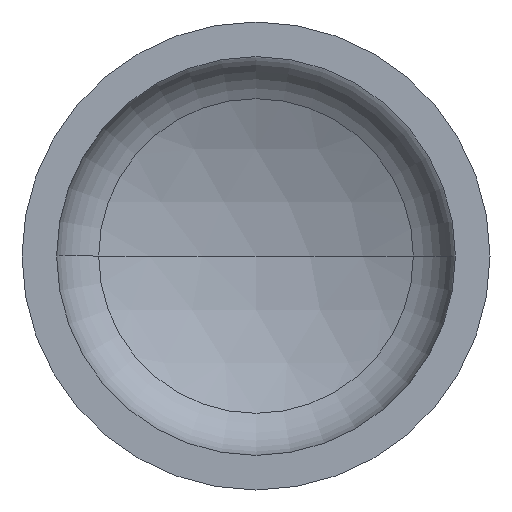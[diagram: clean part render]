
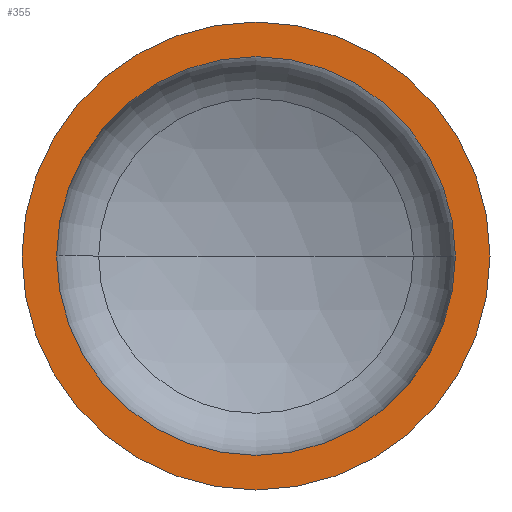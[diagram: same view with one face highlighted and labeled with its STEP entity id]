
A CAD part, front view. The second image highlights one B-rep face of the part: STEP entity #355.
In plain terms, the highlighted planar face has unit normal (0, -1, 0).
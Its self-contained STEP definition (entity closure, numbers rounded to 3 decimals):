
#3 = EDGE_LOOP ( 'NONE', ( #107, #139 ) ) ;
#4 = AXIS2_PLACEMENT_3D ( 'NONE', #179, #180, #359 ) ;
#26 = CIRCLE ( 'NONE', #4, 426. ) ;
#34 = CARTESIAN_POINT ( 'NONE',  ( -500., 0., 0. ) ) ;
#40 = ORIENTED_EDGE ( 'NONE', *, *, #337, .F. ) ;
#44 = PLANE ( 'NONE',  #382 ) ;
#58 = EDGE_LOOP ( 'NONE', ( #361, #40 ) ) ;
#80 = AXIS2_PLACEMENT_3D ( 'NONE', #309, #298, #296 ) ;
#81 = AXIS2_PLACEMENT_3D ( 'NONE', #374, #308, #305 ) ;
#90 = VERTEX_POINT ( 'NONE', #242 ) ;
#92 = VERTEX_POINT ( 'NONE', #369 ) ;
#104 = VERTEX_POINT ( 'NONE', #249 ) ;
#107 = ORIENTED_EDGE ( 'NONE', *, *, #362, .T. ) ;
#110 = EDGE_CURVE ( 'NONE', #247, #90, #230, .T. ) ;
#115 = EDGE_CURVE ( 'NONE', #92, #104, #161, .T. ) ;
#139 = ORIENTED_EDGE ( 'NONE', *, *, #110, .T. ) ;
#154 = DIRECTION ( 'NONE',  ( 0., 1., 0. ) ) ;
#157 = DIRECTION ( 'NONE',  ( -1., 0., 0. ) ) ;
#161 = CIRCLE ( 'NONE', #80, 426. ) ;
#172 = DIRECTION ( 'NONE',  ( 0., -1., 0. ) ) ;
#173 = DIRECTION ( 'NONE',  ( 1., 0., 0. ) ) ;
#179 = CARTESIAN_POINT ( 'NONE',  ( 0., 0., 0. ) ) ;
#180 = DIRECTION ( 'NONE',  ( 0., -1., 0. ) ) ;
#230 = CIRCLE ( 'NONE', #81, 500. ) ;
#242 = CARTESIAN_POINT ( 'NONE',  ( 500., 0., 0. ) ) ;
#247 = VERTEX_POINT ( 'NONE', #34 ) ;
#249 = CARTESIAN_POINT ( 'NONE',  ( -426., 0., 0. ) ) ;
#296 = DIRECTION ( 'NONE',  ( 1., 0., 0. ) ) ;
#297 = FACE_BOUND ( 'NONE', #58, .T. ) ;
#298 = DIRECTION ( 'NONE',  ( 0., -1., 0. ) ) ;
#305 = DIRECTION ( 'NONE',  ( 1., 0., 0. ) ) ;
#308 = DIRECTION ( 'NONE',  ( 0., -1., 0. ) ) ;
#309 = CARTESIAN_POINT ( 'NONE',  ( 0., 0., 0. ) ) ;
#317 = CARTESIAN_POINT ( 'NONE',  ( 0., 0., 0. ) ) ;
#337 = EDGE_CURVE ( 'NONE', #104, #92, #26, .T. ) ;
#355 = ADVANCED_FACE ( 'NONE', ( #297, #356 ), #44, .F. ) ;
#356 = FACE_OUTER_BOUND ( 'NONE', #3, .T. ) ;
#359 = DIRECTION ( 'NONE',  ( 1., 0., 0. ) ) ;
#361 = ORIENTED_EDGE ( 'NONE', *, *, #115, .F. ) ;
#362 = EDGE_CURVE ( 'NONE', #90, #247, #411, .T. ) ;
#369 = CARTESIAN_POINT ( 'NONE',  ( 426., 0., 0. ) ) ;
#372 = AXIS2_PLACEMENT_3D ( 'NONE', #317, #172, #173 ) ;
#374 = CARTESIAN_POINT ( 'NONE',  ( 0., 0., 0. ) ) ;
#382 = AXIS2_PLACEMENT_3D ( 'NONE', #400, #154, #157 ) ;
#400 = CARTESIAN_POINT ( 'NONE',  ( -500., 0., 0. ) ) ;
#411 = CIRCLE ( 'NONE', #372, 500. ) ;
